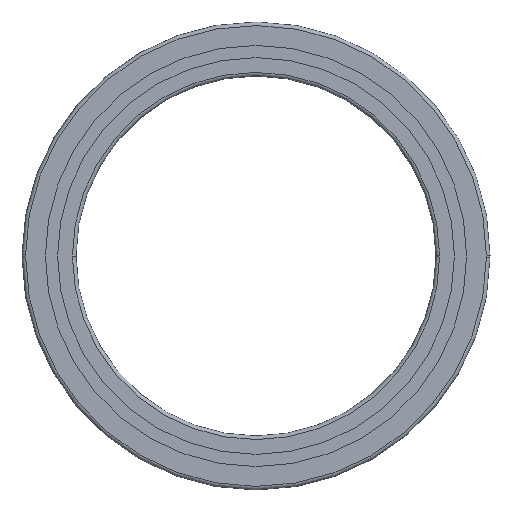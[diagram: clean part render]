
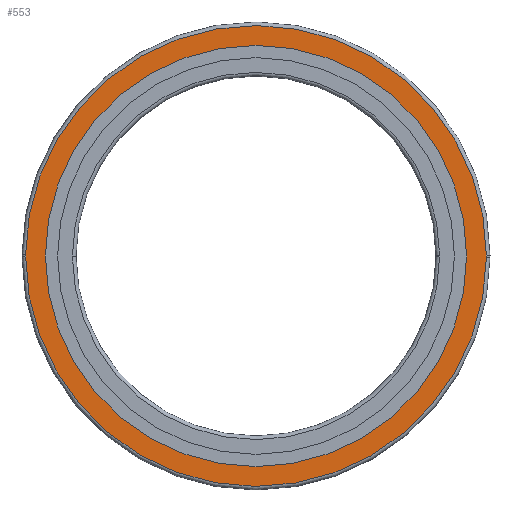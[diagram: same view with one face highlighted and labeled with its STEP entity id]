
A CAD part, front view. The second image highlights one B-rep face of the part: STEP entity #553.
In plain terms, the highlighted planar face has unit normal (0, -1, 0).
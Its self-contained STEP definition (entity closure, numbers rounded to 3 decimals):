
#319=VERTEX_POINT('',#857);
#345=VERTEX_POINT('',#886);
#347=VERTEX_POINT('',#888);
#365=VERTEX_POINT('',#909);
#375=VERTEX_POINT('',#921);
#427=EDGE_CURVE('',#347,#319,#985,.T.);
#477=EDGE_CURVE('',#319,#347,#1040,.T.);
#535=EDGE_CURVE('',#715,#365,#1108,.T.);
#553=ADVANCED_FACE('',(#1127,#1128),#1129,.F.);
#649=EDGE_CURVE('',#365,#345,#1232,.T.);
#699=EDGE_CURVE('',#375,#715,#1285,.T.);
#715=VERTEX_POINT('',#1302);
#739=EDGE_CURVE('',#345,#375,#1330,.T.);
#857=CARTESIAN_POINT('',(-117.0,0.0,0.0));
#886=CARTESIAN_POINT('',(-127.998,0.0,0.791));
#888=CARTESIAN_POINT('',(117.0,0.0,0.));
#909=CARTESIAN_POINT('',(128.0,0.0,0.0));
#921=CARTESIAN_POINT('',(-128.0,0.0,0.));
#985=CIRCLE('',#1610,117.0);
#1040=CIRCLE('',#1686,117.0);
#1108=CIRCLE('',#1771,128.0);
#1127=FACE_OUTER_BOUND('',#1797,.T.);
#1128=FACE_BOUND('',#1798,.T.);
#1129=PLANE('',#1799);
#1232=CIRCLE('',#1923,128.0);
#1285=CIRCLE('',#1988,128.0);
#1302=CARTESIAN_POINT('',(127.998,0.0,-0.791));
#1330=CIRCLE('',#2043,128.0);
#1610=AXIS2_PLACEMENT_3D('',#2358,#2359,#2360);
#1686=AXIS2_PLACEMENT_3D('',#2432,#2433,#2434);
#1771=AXIS2_PLACEMENT_3D('',#2541,#2542,#2543);
#1797=EDGE_LOOP('',(#2564,#2565,#2566,#2567));
#1798=EDGE_LOOP('',(#2568,#2569));
#1799=AXIS2_PLACEMENT_3D('',#2570,#2571,#2572);
#1923=AXIS2_PLACEMENT_3D('',#2690,#2691,#2692);
#1988=AXIS2_PLACEMENT_3D('',#2744,#2745,#2746);
#2043=AXIS2_PLACEMENT_3D('',#2818,#2819,#2820);
#2358=CARTESIAN_POINT('',(0.0,0.0,0.0));
#2359=DIRECTION('',(0.0,-1.0,0.0));
#2360=DIRECTION('',(1.0,0.0,0.0));
#2432=CARTESIAN_POINT('',(0.0,0.0,0.0));
#2433=DIRECTION('',(0.0,-1.0,0.0));
#2434=DIRECTION('',(-1.0,0.0,0.0));
#2541=CARTESIAN_POINT('',(0.0,0.0,0.0));
#2542=DIRECTION('',(0.0,-1.0,0.0));
#2543=DIRECTION('',(-1.0,0.0,0.0));
#2564=ORIENTED_EDGE('',*,*,#699,.T.);
#2565=ORIENTED_EDGE('',*,*,#535,.T.);
#2566=ORIENTED_EDGE('',*,*,#649,.T.);
#2567=ORIENTED_EDGE('',*,*,#739,.T.);
#2568=ORIENTED_EDGE('',*,*,#477,.F.);
#2569=ORIENTED_EDGE('',*,*,#427,.F.);
#2570=CARTESIAN_POINT('',(0.0,0.0,0.0));
#2571=DIRECTION('',(0.0,1.0,0.0));
#2572=DIRECTION('',(1.0,0.0,-0.0));
#2690=CARTESIAN_POINT('',(0.0,0.0,0.0));
#2691=DIRECTION('',(0.0,-1.0,0.0));
#2692=DIRECTION('',(1.0,0.0,0.0));
#2744=CARTESIAN_POINT('',(0.0,0.0,0.0));
#2745=DIRECTION('',(0.0,-1.0,0.0));
#2746=DIRECTION('',(-1.0,0.0,0.0));
#2818=CARTESIAN_POINT('',(0.0,0.0,0.0));
#2819=DIRECTION('',(0.0,-1.0,0.0));
#2820=DIRECTION('',(1.0,0.0,0.0));
